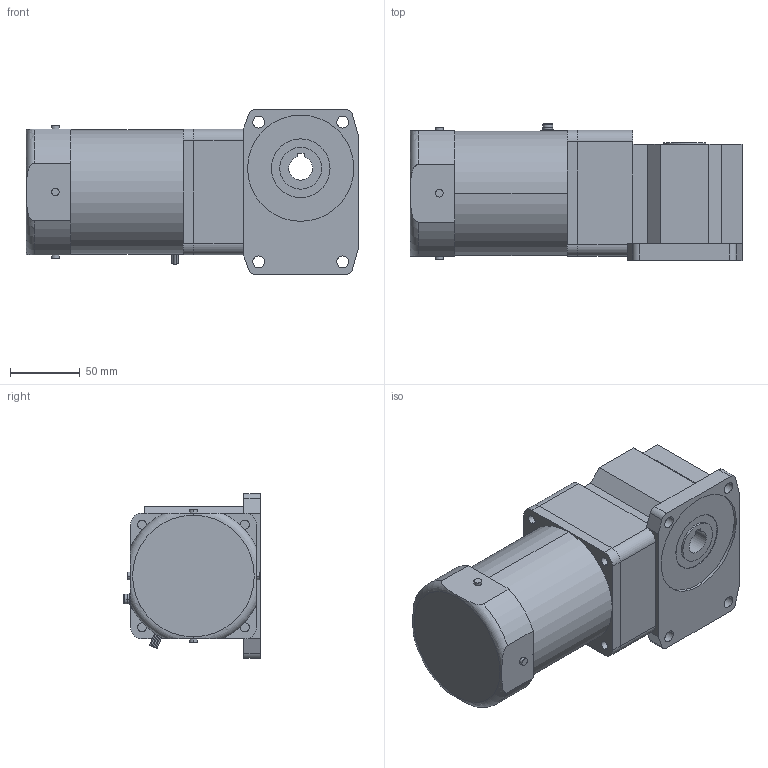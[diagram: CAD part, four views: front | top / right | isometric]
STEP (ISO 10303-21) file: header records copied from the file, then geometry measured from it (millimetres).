
FILE_DESCRIPTION(('starvars output'),'2;1');
FILE_NAME('5IK60GE-CW2E _ 5GE18RH.stp','10:46:51 2015/05/11',( 'Thomas Industrial Network Germany GmbH'),( 'Thomas Industrial Network Germany GmbH'),'unknown preprocess','ACIS' ,'unknown authorization');
FILE_SCHEMA(('AUTOMOTIVE_DESIGN_CC2 {UNKNOWN IMPLEMENTATION LEVEL}'));
Length unit declared in the file: millimetre
Products named in the file (1): PRODUCT_ID_1827
Bounding box: 237.5 x 98 x 118 mm (x, y, z)
Volume: 1650998.1 mm3; surface area: 105861.3 mm2
Topology: 1 solids, 1 shells, 166 faces, 405 edges, 267 vertices
Faces by surface type: plane 80, cylinder 80, torus 6
Entity records: 6040 total; most frequent: CARTESIAN_POINT 1002, ORIENTED_EDGE 810, DIRECTION 672, EDGE_CURVE 405, VERTEX_POINT 267, AXIS2_PLACEMENT_3D 229, VECTOR 214, LINE 214
